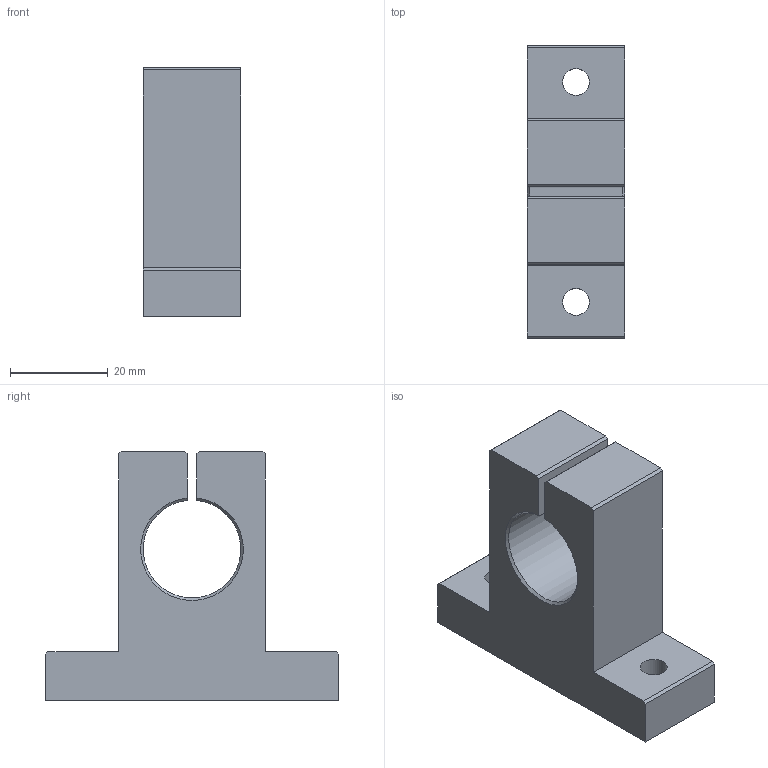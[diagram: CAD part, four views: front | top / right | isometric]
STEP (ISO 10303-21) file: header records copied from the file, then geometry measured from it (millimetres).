
FILE_DESCRIPTION(/* description */ (''),/* implementation_level */ '2;1');
FILE_NAME(/* name */ 'C:\Users\David\ownCloud\Kamp und Kötter\Artikel\Wellenführung D20\Step\Wellenhalter.stp',/* time_stamp */ '2018-06-24T16:21:44+02:00',/* author */ ('David'),/* organization */ (''),/* preprocessor_version */ 'ST-DEVELOPER v17',/* originating_system */ 'Autodesk Inventor 2019',/* authorisation */ '');
FILE_SCHEMA (('AUTOMOTIVE_DESIGN { 1 0 10303 214 3 1 1 }'));
Length unit declared in the file: millimetre
Products named in the file (1): Wellenhalter
Bounding box: 20 x 60 x 51 mm (x, y, z)
Volume: 29410.5 mm3; surface area: 9188.6 mm2
Topology: 1 solids, 1 shells, 24 faces, 68 edges, 46 vertices
Faces by surface type: plane 19, cylinder 3, cone 2
Full cylindrical faces by diameter (mm): 5.5 x2
Entity records: 821 total; most frequent: CARTESIAN_POINT 147, ORIENTED_EDGE 136, DIRECTION 124, EDGE_CURVE 68, LINE 54, VECTOR 54, VERTEX_POINT 46, AXIS2_PLACEMENT_3D 35
